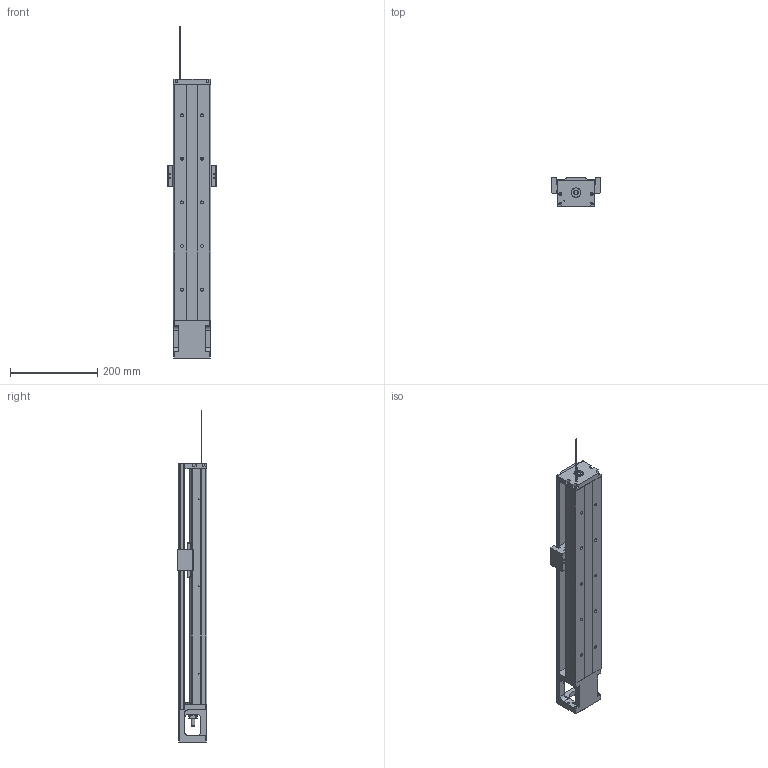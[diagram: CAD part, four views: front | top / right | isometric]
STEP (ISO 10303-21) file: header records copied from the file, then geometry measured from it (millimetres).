
FILE_DESCRIPTION(/* description */ (''),/* implementation_level */ '2;1');
FILE_NAME(/* name */ 'KP46S-540-C.stp',/* time_stamp */ '2020-06-05T10:27:47+08:00',/* author */ (''),/* organization */ (''),/* preprocessor_version */ 'ST-DEVELOPER v14',/* originating_system */ 'SIEMENS PLM Software NX 8.0',/* authorisation */ '');
FILE_SCHEMA (('AUTOMOTIVE_DESIGN { 1 0 10303 214 3 1 1 1 }'));
Length unit declared in the file: millimetre
Products named in the file (1): model1
Bounding box: 112 x 68 x 761.9 mm (x, y, z)
Volume: 1652111.3 mm3; surface area: 424659.1 mm2
Topology: 7 solids, 18 shells, 698 faces, 1830 edges, 1211 vertices
Faces by surface type: plane 337, cylinder 250, cone 56, bspline 47, torus 8
Full cylindrical faces by diameter (mm): 2 x2, 2.11 x2, 2.15 x6, 2.42 x6, 2.5 x4, 3 x4, 3.2 x4, 3.3 x12, 3.4 x8, 4 x6, 4.2 x4, 4.5 x8, 5 x8, 6 x8, 6.35 x2, 6.6 x10, 6.7 x2, 8 x1, 8.7 x4, 9.6 x1, 10 x3, 11 x10, 12 x1, 14.95 x2, 15 x1, 16 x2, 22 x3, 27.5 x1, 44 x1, 50 x1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
Entity records: 31773 total; most frequent: CARTESIAN_POINT 13103, ORIENTED_EDGE 3164, DIRECTION 3075, EDGE_CURVE 1582, VERTEX_POINT 1138, AXIS2_PLACEMENT_3D 1136, EDGE_LOOP 982, LINE 803
